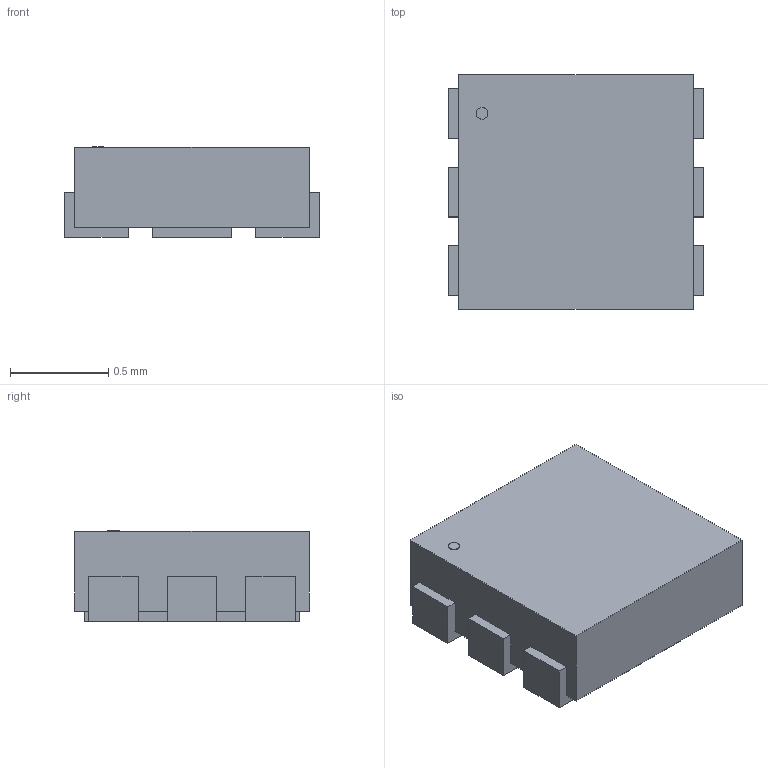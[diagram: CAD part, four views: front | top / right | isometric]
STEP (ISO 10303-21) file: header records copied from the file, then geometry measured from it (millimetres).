
FILE_DESCRIPTION(('STEP AP214'),'1');
FILE_NAME('XDFN6_1P25X1P25_ONS','2026-04-22T05:41:09',(''),(''),'','','');
FILE_SCHEMA(('AUTOMOTIVE_DESIGN'));
Length unit declared in the file: millimetre
Products named in the file (1): product
Bounding box: 1.3 x 1.19 x 0.46 mm (x, y, z)
Volume: 0.6 mm3; surface area: 7.8 mm2
Topology: 9 solids, 9 shells, 63 faces, 135 edges, 90 vertices
Faces by surface type: plane 62, cylinder 1
Full cylindrical faces by diameter (mm): 0.06 x1
Entity records: 1753 total; most frequent: ORIENTED_EDGE 268, DIRECTION 266, CARTESIAN_POINT 157, EDGE_CURVE 134, LINE 132, VECTOR 132, VERTEX_POINT 90, AXIS2_PLACEMENT_3D 67
